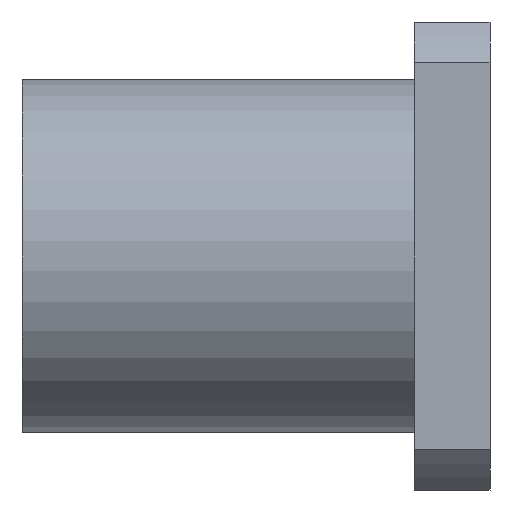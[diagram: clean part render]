
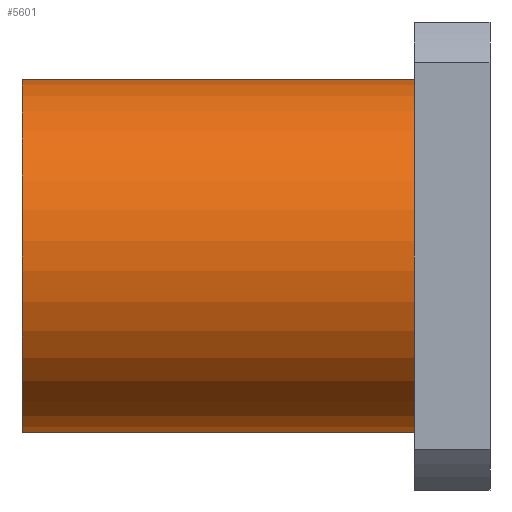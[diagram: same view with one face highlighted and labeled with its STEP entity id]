
A CAD part, front view. The second image highlights one B-rep face of the part: STEP entity #5601.
In plain terms, the highlighted cylindrical face has radius 14 mm (diameter 28 mm), a full revolution.
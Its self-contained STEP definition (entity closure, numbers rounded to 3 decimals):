
#82=CYLINDRICAL_SURFACE('',#5964,14.);
#119=CIRCLE('',#5965,14.);
#120=CIRCLE('',#5966,14.);
#1719=ORIENTED_EDGE('',*,*,#3336,.T.);
#1720=ORIENTED_EDGE('',*,*,#3337,.T.);
#3336=EDGE_CURVE('',#4143,#4143,#119,.T.);
#3337=EDGE_CURVE('',#4144,#4144,#120,.F.);
#4143=VERTEX_POINT('',#8882);
#4144=VERTEX_POINT('',#8884);
#4596=EDGE_LOOP('',(#1719));
#4597=EDGE_LOOP('',(#1720));
#4996=FACE_BOUND('',#4596,.T.);
#4997=FACE_BOUND('',#4597,.T.);
#5601=ADVANCED_FACE('',(#4996,#4997),#82,.T.);
#5964=AXIS2_PLACEMENT_3D('',#8880,#6498,#6499);
#5965=AXIS2_PLACEMENT_3D('',#8881,#6500,#6501);
#5966=AXIS2_PLACEMENT_3D('',#8883,#6502,#6503);
#6498=DIRECTION('',(1.,0.,0.));
#6499=DIRECTION('',(0.,0.707,-0.707));
#6500=DIRECTION('',(1.,0.,0.));
#6501=DIRECTION('',(0.,0.707,-0.707));
#6502=DIRECTION('',(1.,0.,0.));
#6503=DIRECTION('',(0.,0.707,-0.707));
#8880=CARTESIAN_POINT('',(-18.5,0.,0.));
#8881=CARTESIAN_POINT('',(-18.5,0.,0.));
#8882=CARTESIAN_POINT('',(-18.5,9.899,-9.899));
#8883=CARTESIAN_POINT('',(12.5,0.,0.));
#8884=CARTESIAN_POINT('',(12.5,9.899,-9.899));
